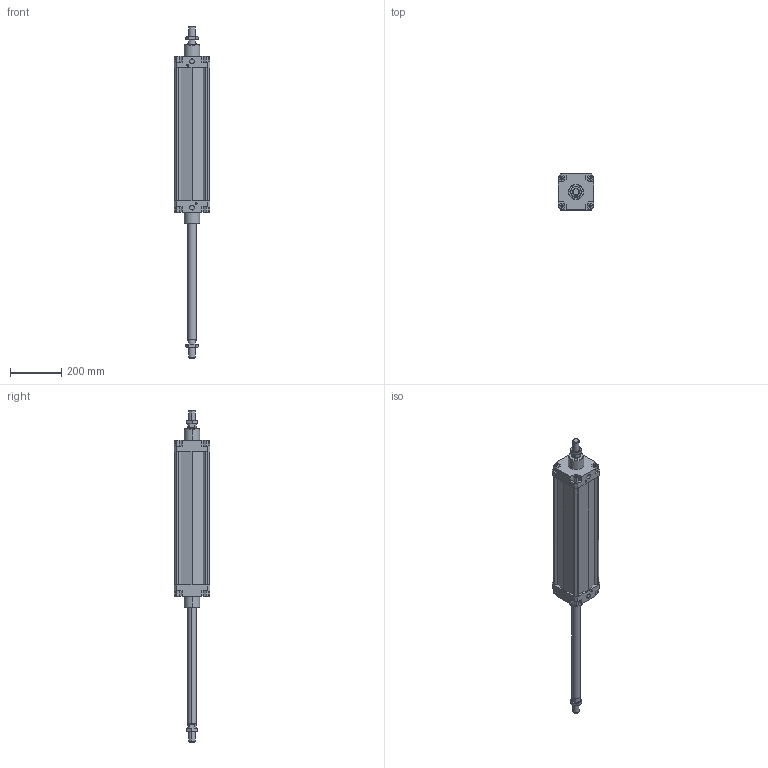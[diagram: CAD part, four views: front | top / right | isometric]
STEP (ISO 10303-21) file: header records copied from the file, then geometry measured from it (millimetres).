
FILE_DESCRIPTION((''),'2;1');
FILE_NAME('I:\DOC-EDP\Lib-3d\1319\CILINDRI\Ø125\1319_125_0450_02.stp','2003-04-08T12:26:31',('maffial1'),(''),'Autodesk Inventor (R) 6.0','Autodesk Inventor (R) 6.0','');
FILE_SCHEMA(('AUTOMOTIVE_DESIGN { 1 0 10303 214 1 1 1 1 }'));
Length unit declared in the file: millimetre
Products named in the file (4): 1319_125_0450_02; CIM04_125_450; CIM03_125_450; 1320_125_18F
Assembly tree (4 placements, depth 2):
  1319_125_0450_02
    CIM04_125_450
    CIM03_125_450
    1320_125_18F  x2
Bounding box: 140 x 140 x 1298 mm (x, y, z)
Volume: 10610375.5 mm3; surface area: 632682.3 mm2
Topology: 4 solids, 4 shells, 290 faces, 724 edges, 452 vertices
Faces by surface type: plane 130, bspline 72, cone 60, cylinder 28
Entity records: 8094 total; most frequent: CARTESIAN_POINT 1972, ORIENTED_EDGE 1288, DIRECTION 1160, EDGE_CURVE 644, VECTOR 480, LINE 480, VERTEX_POINT 416, AXIS2_PLACEMENT_3D 340
